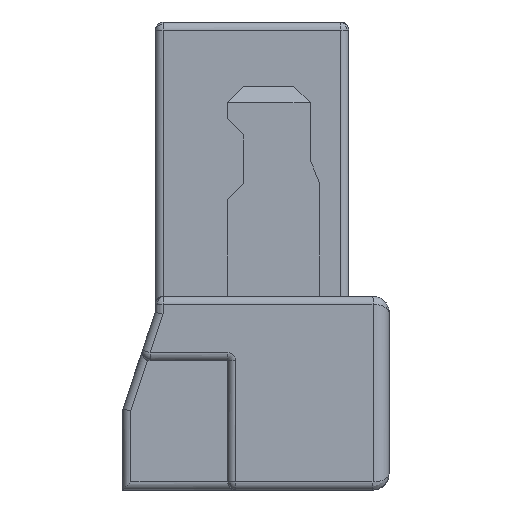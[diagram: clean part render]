
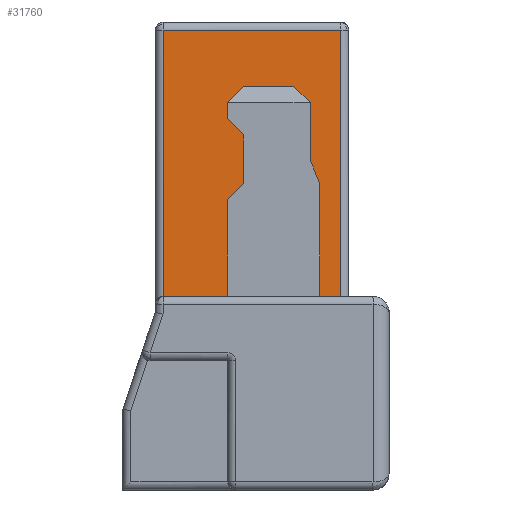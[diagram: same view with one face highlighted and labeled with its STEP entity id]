
A CAD part, left-side view. The second image highlights one B-rep face of the part: STEP entity #31760.
In plain terms, the highlighted planar face has unit normal (-1, 0, 0).
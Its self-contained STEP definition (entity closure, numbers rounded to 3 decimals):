
#2434=DIRECTION('',(0.,0.,1.));
#2435=VECTOR('',#2434,1.65);
#2436=CARTESIAN_POINT('',(-16.09,1.4,1.2));
#2437=LINE('',#2436,#2435);
#2463=DIRECTION('',(0.,-1.,0.));
#2464=VECTOR('',#2463,1.1);
#2465=CARTESIAN_POINT('',(-16.09,1.4,2.85));
#2466=LINE('',#2465,#2464);
#2471=DIRECTION('',(0.,0.,-1.));
#2472=VECTOR('',#2471,0.354);
#2473=CARTESIAN_POINT('',(-16.09,0.49,2.4));
#2474=LINE('',#2473,#2472);
#2475=DIRECTION('',(0.,-0.707,-0.707));
#2476=VECTOR('',#2475,0.141);
#2477=CARTESIAN_POINT('',(-16.09,0.59,2.5));
#2478=LINE('',#2477,#2476);
#2479=DIRECTION('',(0.,-0.707,0.707));
#2480=VECTOR('',#2479,0.141);
#2481=CARTESIAN_POINT('',(-16.09,1.,2.4));
#2482=LINE('',#2481,#2480);
#2483=DIRECTION('',(0.,0.707,0.707));
#2484=VECTOR('',#2483,0.141);
#2485=CARTESIAN_POINT('',(-16.09,0.9,2.2));
#2486=LINE('',#2485,#2484);
#2487=DIRECTION('',(0.,-0.707,0.707));
#2488=VECTOR('',#2487,0.141);
#2489=CARTESIAN_POINT('',(-16.09,1.,1.8));
#2490=LINE('',#2489,#2488);
#2491=DIRECTION('',(0.,-1.,0.));
#2492=VECTOR('',#2491,0.4);
#2493=CARTESIAN_POINT('',(-16.09,1.4,1.2));
#2494=LINE('',#2493,#2492);
#2495=DIRECTION('',(0.,-1.,0.));
#2496=VECTOR('',#2495,0.13);
#2497=CARTESIAN_POINT('',(-16.09,0.43,1.2));
#2498=LINE('',#2497,#2496);
#2499=DIRECTION('',(0.,-0.38,-0.925));
#2500=VECTOR('',#2499,0.158);
#2501=CARTESIAN_POINT('',(-16.09,0.49,2.046));
#2502=LINE('',#2501,#2500);
#2519=DIRECTION('',(0.,0.,1.));
#2520=VECTOR('',#2519,0.7);
#2521=CARTESIAN_POINT('',(-16.09,0.43,1.2));
#2522=LINE('',#2521,#2520);
#2559=DIRECTION('',(0.,0.,-1.));
#2560=VECTOR('',#2559,0.6);
#2561=CARTESIAN_POINT('',(-16.09,1.,1.8));
#2562=LINE('',#2561,#2560);
#2575=DIRECTION('',(0.,0.,-1.));
#2576=VECTOR('',#2575,0.3);
#2577=CARTESIAN_POINT('',(-16.09,0.9,2.2));
#2578=LINE('',#2577,#2576);
#2591=DIRECTION('',(0.,0.,-1.));
#2592=VECTOR('',#2591,0.1);
#2593=CARTESIAN_POINT('',(-16.09,1.,2.4));
#2594=LINE('',#2593,#2592);
#2607=DIRECTION('',(0.,1.,0.));
#2608=VECTOR('',#2607,0.31);
#2609=CARTESIAN_POINT('',(-16.09,0.59,2.5));
#2610=LINE('',#2609,#2608);
#2623=DIRECTION('',(0.,0.,-1.));
#2624=VECTOR('',#2623,1.65);
#2625=CARTESIAN_POINT('',(-16.09,0.3,2.85));
#2626=LINE('',#2625,#2624);
#22119=CARTESIAN_POINT('',(-16.09,1.,1.2));
#22121=VERTEX_POINT('',#22119);
#22123=CARTESIAN_POINT('',(-16.09,1.,1.8));
#22124=VERTEX_POINT('',#22123);
#22883=CARTESIAN_POINT('',(-16.09,0.49,2.4));
#22884=VERTEX_POINT('',#22883);
#22885=CARTESIAN_POINT('',(-16.09,0.49,2.046));
#22886=VERTEX_POINT('',#22885);
#22889=CARTESIAN_POINT('',(-16.09,0.59,2.5));
#22890=VERTEX_POINT('',#22889);
#22893=CARTESIAN_POINT('',(-16.09,0.43,1.9));
#22894=VERTEX_POINT('',#22893);
#24314=CARTESIAN_POINT('',(-16.09,1.,2.3));
#24315=VERTEX_POINT('',#24314);
#24316=CARTESIAN_POINT('',(-16.09,1.,2.4));
#24317=VERTEX_POINT('',#24316);
#24359=CARTESIAN_POINT('',(-16.09,1.4,2.85));
#24361=VERTEX_POINT('',#24359);
#24362=CARTESIAN_POINT('',(-16.09,1.4,1.2));
#24363=VERTEX_POINT('',#24362);
#24379=CARTESIAN_POINT('',(-16.09,0.9,2.5));
#24380=VERTEX_POINT('',#24379);
#24381=CARTESIAN_POINT('',(-16.09,0.9,2.2));
#24382=VERTEX_POINT('',#24381);
#24383=CARTESIAN_POINT('',(-16.09,0.9,1.9));
#24384=VERTEX_POINT('',#24383);
#24385=CARTESIAN_POINT('',(-16.09,0.3,2.85));
#24386=VERTEX_POINT('',#24385);
#24387=CARTESIAN_POINT('',(-16.09,0.3,1.2));
#24388=VERTEX_POINT('',#24387);
#24389=CARTESIAN_POINT('',(-16.09,0.43,1.2));
#24390=VERTEX_POINT('',#24389);
#31725=CARTESIAN_POINT('',(-16.09,0.715,1.8));
#31726=DIRECTION('',(1.,0.,0.));
#31727=DIRECTION('',(0.,1.,0.));
#31728=AXIS2_PLACEMENT_3D('',#31725,#31726,#31727);
#31729=PLANE('',#31728);
#31731=ORIENTED_EDGE('',*,*,#31730,.F.);
#31733=ORIENTED_EDGE('',*,*,#31732,.F.);
#31735=ORIENTED_EDGE('',*,*,#31734,.T.);
#31737=ORIENTED_EDGE('',*,*,#31736,.F.);
#31739=ORIENTED_EDGE('',*,*,#31738,.T.);
#31741=ORIENTED_EDGE('',*,*,#31740,.F.);
#31743=ORIENTED_EDGE('',*,*,#31742,.T.);
#31745=ORIENTED_EDGE('',*,*,#31744,.F.);
#31747=ORIENTED_EDGE('',*,*,#31746,.T.);
#31748=ORIENTED_EDGE('',*,*,#31230,.F.);
#31749=ORIENTED_EDGE('',*,*,#31679,.T.);
#31750=ORIENTED_EDGE('',*,*,#31715,.T.);
#31752=ORIENTED_EDGE('',*,*,#31751,.T.);
#31753=ORIENTED_EDGE('',*,*,#31238,.F.);
#31755=ORIENTED_EDGE('',*,*,#31754,.T.);
#31757=ORIENTED_EDGE('',*,*,#31756,.F.);
#31758=EDGE_LOOP('',(#31731,#31733,#31735,#31737,#31739,#31741,#31743,#31745,
#31747,#31748,#31749,#31750,#31752,#31753,#31755,#31757));
#31759=FACE_OUTER_BOUND('',#31758,.F.);
#31760=ADVANCED_FACE('',(#31759),#31729,.F.);
#31230=EDGE_CURVE('',#24363,#22121,#2494,.T.);
#31238=EDGE_CURVE('',#24390,#24388,#2498,.T.);
#31679=EDGE_CURVE('',#24363,#24361,#2437,.T.);
#31715=EDGE_CURVE('',#24361,#24386,#2466,.T.);
#31730=EDGE_CURVE('',#22884,#22886,#2474,.T.);
#31732=EDGE_CURVE('',#22890,#22884,#2478,.T.);
#31734=EDGE_CURVE('',#22890,#24380,#2610,.T.);
#31736=EDGE_CURVE('',#24317,#24380,#2482,.T.);
#31738=EDGE_CURVE('',#24317,#24315,#2594,.T.);
#31740=EDGE_CURVE('',#24382,#24315,#2486,.T.);
#31742=EDGE_CURVE('',#24382,#24384,#2578,.T.);
#31744=EDGE_CURVE('',#22124,#24384,#2490,.T.);
#31746=EDGE_CURVE('',#22124,#22121,#2562,.T.);
#31751=EDGE_CURVE('',#24386,#24388,#2626,.T.);
#31754=EDGE_CURVE('',#24390,#22894,#2522,.T.);
#31756=EDGE_CURVE('',#22886,#22894,#2502,.T.);
